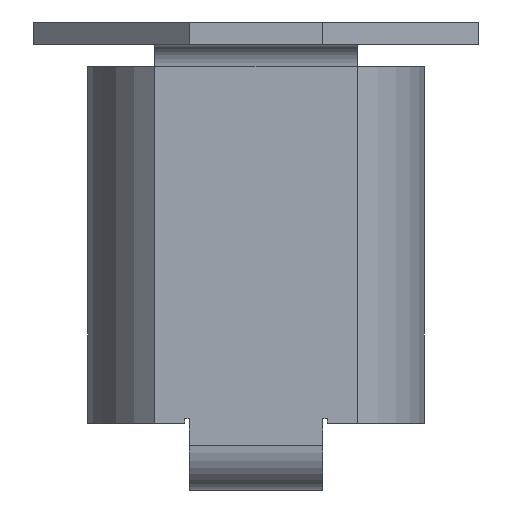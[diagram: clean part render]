
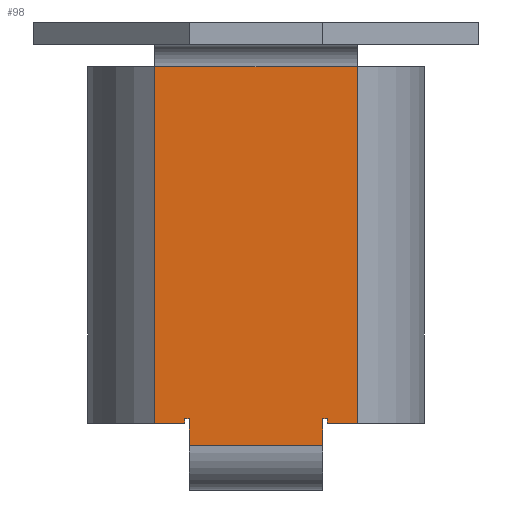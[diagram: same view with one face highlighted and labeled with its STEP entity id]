
A CAD part, front view. The second image highlights one B-rep face of the part: STEP entity #98.
In plain terms, the highlighted planar face has unit normal (0, -1, 0).
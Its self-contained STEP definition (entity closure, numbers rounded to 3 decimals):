
#98=ADVANCED_FACE('',(#176),#142,.T.);
#142=PLANE('',#858);
#176=FACE_OUTER_BOUND('',#216,.T.);
#216=EDGE_LOOP('',(#269,#270,#271,#272,#273,#274,#275,#276,#277,#278,#279,
#280));
#269=ORIENTED_EDGE('',*,*,#555,.T.);
#270=ORIENTED_EDGE('',*,*,#557,.T.);
#271=ORIENTED_EDGE('',*,*,#558,.T.);
#272=ORIENTED_EDGE('',*,*,#559,.T.);
#273=ORIENTED_EDGE('',*,*,#560,.T.);
#274=ORIENTED_EDGE('',*,*,#561,.T.);
#275=ORIENTED_EDGE('',*,*,#562,.T.);
#276=ORIENTED_EDGE('',*,*,#563,.T.);
#277=ORIENTED_EDGE('',*,*,#564,.T.);
#278=ORIENTED_EDGE('',*,*,#565,.F.);
#279=ORIENTED_EDGE('',*,*,#566,.F.);
#280=ORIENTED_EDGE('',*,*,#567,.T.);
#483=VERTEX_POINT('',#1148);
#484=VERTEX_POINT('',#1150);
#485=VERTEX_POINT('',#1154);
#486=VERTEX_POINT('',#1156);
#487=VERTEX_POINT('',#1158);
#488=VERTEX_POINT('',#1160);
#489=VERTEX_POINT('',#1162);
#490=VERTEX_POINT('',#1164);
#491=VERTEX_POINT('',#1166);
#492=VERTEX_POINT('',#1168);
#493=VERTEX_POINT('',#1170);
#494=VERTEX_POINT('',#1172);
#555=EDGE_CURVE('',#484,#483,#663,.T.);
#557=EDGE_CURVE('',#483,#485,#665,.T.);
#558=EDGE_CURVE('',#485,#486,#666,.T.);
#559=EDGE_CURVE('',#486,#487,#667,.T.);
#560=EDGE_CURVE('',#487,#488,#668,.T.);
#561=EDGE_CURVE('',#488,#489,#669,.T.);
#562=EDGE_CURVE('',#489,#490,#670,.T.);
#563=EDGE_CURVE('',#490,#491,#671,.T.);
#564=EDGE_CURVE('',#491,#492,#672,.T.);
#565=EDGE_CURVE('',#493,#492,#673,.T.);
#566=EDGE_CURVE('',#494,#493,#674,.T.);
#567=EDGE_CURVE('',#494,#484,#675,.T.);
#663=LINE('',#1149,#751);
#665=LINE('',#1153,#753);
#666=LINE('',#1155,#754);
#667=LINE('',#1157,#755);
#668=LINE('',#1159,#756);
#669=LINE('',#1161,#757);
#670=LINE('',#1163,#758);
#671=LINE('',#1165,#759);
#672=LINE('',#1167,#760);
#673=LINE('',#1169,#761);
#674=LINE('',#1171,#762);
#675=LINE('',#1173,#763);
#751=VECTOR('',#927,1.);
#753=VECTOR('',#931,1.);
#754=VECTOR('',#932,1.);
#755=VECTOR('',#933,1.);
#756=VECTOR('',#934,1.);
#757=VECTOR('',#935,1.);
#758=VECTOR('',#936,1.);
#759=VECTOR('',#937,1.);
#760=VECTOR('',#938,1.);
#761=VECTOR('',#939,1.);
#762=VECTOR('',#940,1.);
#763=VECTOR('',#941,1.);
#858=AXIS2_PLACEMENT_3D('',#1174,#942,#943);
#927=DIRECTION('',(1.,0.,0.));
#931=DIRECTION('',(0.,0.,1.));
#932=DIRECTION('',(1.,0.,0.));
#933=DIRECTION('',(0.,0.,-1.));
#934=DIRECTION('',(1.,0.,0.));
#935=DIRECTION('',(0.,0.,1.));
#936=DIRECTION('',(1.,0.,0.));
#937=DIRECTION('',(0.,0.,-1.));
#938=DIRECTION('',(1.,0.,0.));
#939=DIRECTION('',(0.,0.,-1.));
#940=DIRECTION('',(1.,0.,0.));
#941=DIRECTION('',(0.,0.,-1.));
#942=DIRECTION('',(0.,-1.,0.));
#943=DIRECTION('',(0.,0.,-1.));
#1148=CARTESIAN_POINT('',(-1.6,9.,-8.5));
#1149=CARTESIAN_POINT('',(-2.268,9.,-8.5));
#1150=CARTESIAN_POINT('',(-2.268,9.,-8.5));
#1153=CARTESIAN_POINT('',(-1.6,9.,-0.5));
#1154=CARTESIAN_POINT('',(-1.6,9.,-8.4));
#1155=CARTESIAN_POINT('',(-2.268,9.,-8.4));
#1156=CARTESIAN_POINT('',(-1.5,9.,-8.4));
#1157=CARTESIAN_POINT('',(-1.5,9.,-0.5));
#1158=CARTESIAN_POINT('',(-1.5,9.,-9.));
#1159=CARTESIAN_POINT('',(-2.268,9.,-9.));
#1160=CARTESIAN_POINT('',(1.5,9.,-9.));
#1161=CARTESIAN_POINT('',(1.5,9.,-0.5));
#1162=CARTESIAN_POINT('',(1.5,9.,-8.4));
#1163=CARTESIAN_POINT('',(-2.268,9.,-8.4));
#1164=CARTESIAN_POINT('',(1.6,9.,-8.4));
#1165=CARTESIAN_POINT('',(1.6,9.,-0.5));
#1166=CARTESIAN_POINT('',(1.6,9.,-8.5));
#1167=CARTESIAN_POINT('',(-2.268,9.,-8.5));
#1168=CARTESIAN_POINT('',(2.268,9.,-8.5));
#1169=CARTESIAN_POINT('',(2.268,9.,-0.5));
#1170=CARTESIAN_POINT('',(2.268,9.,-0.5));
#1171=CARTESIAN_POINT('',(-2.268,9.,-0.5));
#1172=CARTESIAN_POINT('',(-2.268,9.,-0.5));
#1173=CARTESIAN_POINT('',(-2.268,9.,-0.5));
#1174=CARTESIAN_POINT('',(-2.268,9.,-0.5));
